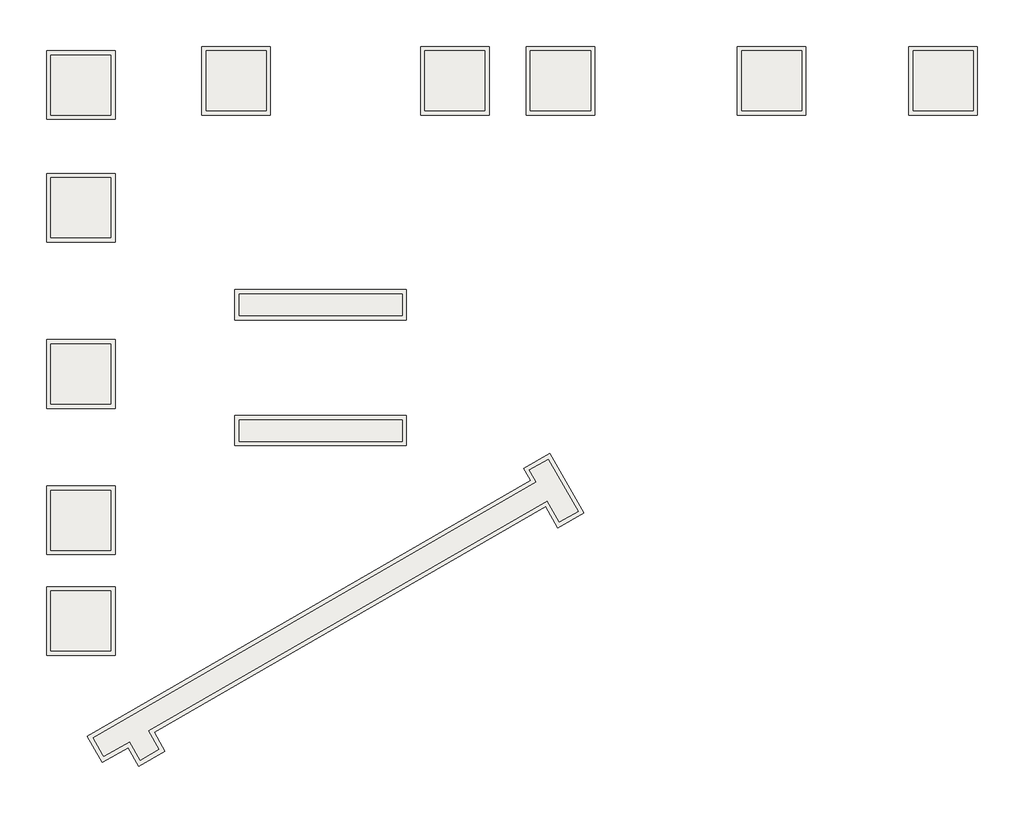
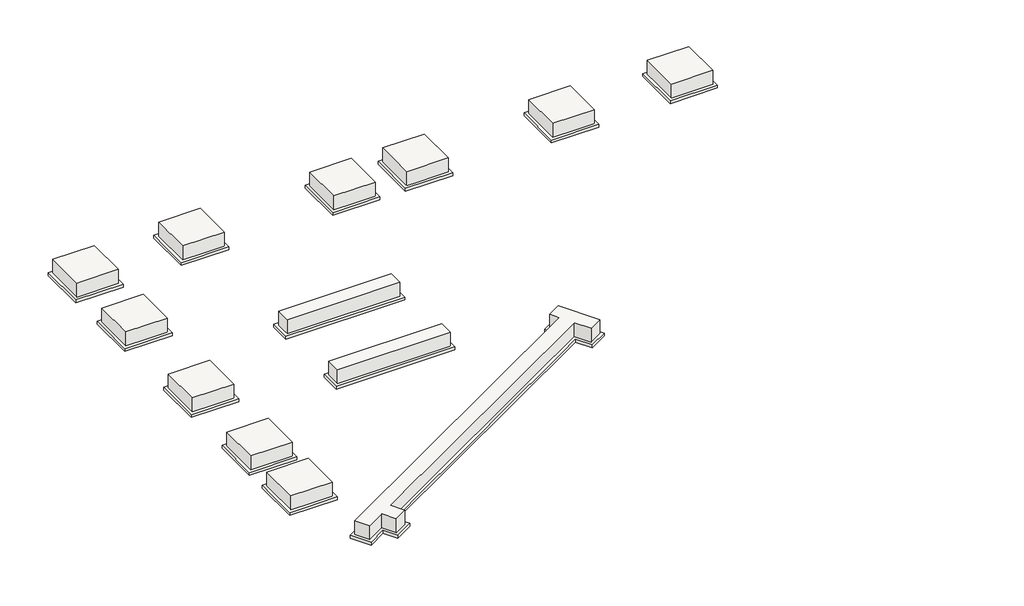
# One storey: 2 slabs.
"""IFC4 building model written with IfcOpenShell, lengths in millimetres."""

from ifc_helpers import new_model, si_unit, frame, origin, place, context, project, spatial, polyline, outline, extrude, faceted_brep, element, save

model = new_model("IFC4")

# Units and contexts
model_context = context("Model", 3, world=origin())
ifc_project = project(units=[si_unit("LENGTHUNIT", "METRE", prefix="MILLI")], contexts=[model_context])

# Site, building, storey
site = spatial("IfcSite", under=ifc_project)
building = spatial("IfcBuilding", under=site)
storey = spatial("IfcBuildingStorey", under=building, Name="КЖм.+1.100 (Верх ростверка 4)", Elevation=1100.0)

# Slabs
placement = place(None, origin())
element("IfcSlab", 1, ObjectType="В25 500мм", at=placement, inside=storey, context=model_context, shape_type="Brep", body=[
    faceted_brep([(16313.0052953, 39954.478659, 600.0), (16313.0052953, 38554.4786617, 600.0), (14913.0052981, 38554.4786617, 600.0), (14913.0052981, 39954.478659, 600.0), (15313.2052981, 38954.4786617, 600.0), (15013.2052981, 38954.4786617, 600.0), (15013.2052981, 38654.4786617, 600.0), (15313.2052981, 38654.4786617, 600.0), (15763.2052981, 39854.4786617, 600.0), (15463.2052981, 39854.4786617, 600.0), (15463.2052981, 39554.4786617, 600.0), (15763.2052981, 39554.4786617, 600.0), (16213.2052988, 38954.478661, 600.0), (15913.2052988, 38954.478661, 600.0), (15913.2052988, 38654.478661, 600.0), (16213.2052988, 38654.478661, 600.0), (16313.0052953, 38554.4786617, 1100.0), (16313.0052953, 39954.478659, 1100.0), (14913.0052981, 39954.478659, 1100.0), (14913.0052981, 38554.4786617, 1100.0), (15013.2052981, 38954.4786617, 650.0), (15313.2052981, 38954.4786617, 650.0), (15313.2052981, 38654.4786617, 650.0), (15013.2052981, 38654.4786617, 650.0), (15463.2052981, 39854.4786617, 650.0), (15763.2052981, 39854.4786617, 650.0), (15763.2052981, 39554.4786617, 650.0), (15463.2052981, 39554.4786617, 650.0), (15913.2052988, 38954.478661, 650.0), (16213.2052988, 38954.478661, 650.0), (16213.2052988, 38654.478661, 650.0), (15913.2052988, 38654.478661, 650.0)], [[[0, 1, 2, 3], [4, 5, 6, 7], [8, 9, 10, 11], [12, 13, 14, 15]], [[16, 17, 18, 19]], [[1, 0, 17, 16]], [[2, 1, 16, 19]], [[3, 2, 19, 18]], [[0, 3, 18, 17]], [[20, 21, 22, 23]], [[21, 20, 5, 4]], [[20, 23, 6, 5]], [[23, 22, 7, 6]], [[22, 21, 4, 7]], [[24, 25, 26, 27]], [[25, 24, 9, 8]], [[24, 27, 10, 9]], [[27, 26, 11, 10]], [[26, 25, 8, 11]], [[28, 29, 30, 31]], [[29, 28, 13, 12]], [[28, 31, 14, 13]], [[31, 30, 15, 14]], [[30, 29, 12, 15]]]),
    faceted_brep([(12313.0052953, 39954.478659, 600.0), (12313.0052953, 38554.4786617, 600.0), (10913.0052981, 38554.4786617, 600.0), (10913.0052981, 39954.478659, 600.0), (11313.2052981, 38954.4786617, 600.0), (11013.2052981, 38954.4786617, 600.0), (11013.2052981, 38654.4786617, 600.0), (11313.2052981, 38654.4786617, 600.0), (11763.2052981, 39854.4786617, 600.0), (11463.2052981, 39854.4786617, 600.0), (11463.2052981, 39554.4786617, 600.0), (11763.2052981, 39554.4786617, 600.0), (12213.2052988, 38954.478661, 600.0), (11913.2052988, 38954.478661, 600.0), (11913.2052988, 38654.478661, 600.0), (12213.2052988, 38654.478661, 600.0), (12313.0052953, 38554.4786617, 1100.0), (12313.0052953, 39954.478659, 1100.0), (10913.0052981, 39954.478659, 1100.0), (10913.0052981, 38554.4786617, 1100.0), (11013.2052981, 38954.4786617, 650.0), (11313.2052981, 38954.4786617, 650.0), (11313.2052981, 38654.4786617, 650.0), (11013.2052981, 38654.4786617, 650.0), (11463.2052981, 39854.4786617, 650.0), (11763.2052981, 39854.4786617, 650.0), (11763.2052981, 39554.4786617, 650.0), (11463.2052981, 39554.4786617, 650.0), (11913.2052988, 38954.478661, 650.0), (12213.2052988, 38954.478661, 650.0), (12213.2052988, 38654.478661, 650.0), (11913.2052988, 38654.478661, 650.0)], [[[0, 1, 2, 3], [4, 5, 6, 7], [8, 9, 10, 11], [12, 13, 14, 15]], [[16, 17, 18, 19]], [[1, 0, 17, 16]], [[2, 1, 16, 19]], [[3, 2, 19, 18]], [[0, 3, 18, 17]], [[20, 21, 22, 23]], [[21, 20, 5, 4]], [[20, 23, 6, 5]], [[23, 22, 7, 6]], [[22, 21, 4, 7]], [[24, 25, 26, 27]], [[25, 24, 9, 8]], [[24, 27, 10, 9]], [[27, 26, 11, 10]], [[26, 25, 8, 11]], [[28, 29, 30, 31]], [[29, 28, 13, 12]], [[28, 31, 14, 13]], [[31, 30, 15, 14]], [[30, 29, 12, 15]]]),
    faceted_brep([(7393.0494027, 39954.478659, 600.0), (7393.0494027, 38554.4786617, 600.0), (5993.0494055, 38554.4786617, 600.0), (5993.0494055, 39954.478659, 600.0), (6393.2494055, 38954.4786617, 600.0), (6093.2494055, 38954.4786617, 600.0), (6093.2494055, 38654.4786617, 600.0), (6393.2494055, 38654.4786617, 600.0), (6843.2494055, 39854.4786617, 600.0), (6543.2494055, 39854.4786617, 600.0), (6543.2494055, 39554.4786617, 600.0), (6843.2494055, 39554.4786617, 600.0), (7293.2494062, 38954.478661, 600.0), (6993.2494062, 38954.478661, 600.0), (6993.2494062, 38654.478661, 600.0), (7293.2494062, 38654.478661, 600.0), (7393.0494027, 38554.4786617, 1100.0), (7393.0494027, 39954.478659, 1100.0), (5993.0494055, 39954.478659, 1100.0), (5993.0494055, 38554.4786617, 1100.0), (6093.2494055, 38954.4786617, 650.0), (6393.2494055, 38954.4786617, 650.0), (6393.2494055, 38654.4786617, 650.0), (6093.2494055, 38654.4786617, 650.0), (6543.2494055, 39854.4786617, 650.0), (6843.2494055, 39854.4786617, 650.0), (6843.2494055, 39554.4786617, 650.0), (6543.2494055, 39554.4786617, 650.0), (6993.2494062, 38954.478661, 650.0), (7293.2494062, 38954.478661, 650.0), (7293.2494062, 38654.478661, 650.0), (6993.2494062, 38654.478661, 650.0)], [[[0, 1, 2, 3], [4, 5, 6, 7], [8, 9, 10, 11], [12, 13, 14, 15]], [[16, 17, 18, 19]], [[1, 0, 17, 16]], [[2, 1, 16, 19]], [[3, 2, 19, 18]], [[0, 3, 18, 17]], [[20, 21, 22, 23]], [[21, 20, 5, 4]], [[20, 23, 6, 5]], [[23, 22, 7, 6]], [[22, 21, 4, 7]], [[24, 25, 26, 27]], [[25, 24, 9, 8]], [[24, 27, 10, 9]], [[27, 26, 11, 10]], [[26, 25, 8, 11]], [[28, 29, 30, 31]], [[29, 28, 13, 12]], [[28, 31, 14, 13]], [[31, 30, 15, 14]], [[30, 29, 12, 15]]]),
    faceted_brep([(4933.0494055, 39954.4786829, 600.0), (4933.0494055, 38554.4786856, 600.0), (3533.0494083, 38554.4786856, 600.0), (3533.0494083, 39954.4786829, 600.0), (3933.0494083, 38954.4786856, 600.0), (3633.0494083, 38954.4786856, 600.0), (3633.0494083, 38654.4786856, 600.0), (3933.0494083, 38654.4786856, 600.0), (4383.0494083, 39854.4786856, 600.0), (4083.0494083, 39854.4786856, 600.0), (4083.0494083, 39554.4786856, 600.0), (4383.0494083, 39554.4786856, 600.0), (4833.049409, 38954.4786849, 600.0), (4533.049409, 38954.4786849, 600.0), (4533.049409, 38654.4786849, 600.0), (4833.049409, 38654.4786849, 600.0), (4933.0494055, 38554.4786856, 1100.0), (4933.0494055, 39954.4786829, 1100.0), (3533.0494083, 39954.4786829, 1100.0), (3533.0494083, 38554.4786856, 1100.0), (3633.0494083, 38954.4786856, 650.0), (3933.0494083, 38954.4786856, 650.0), (3933.0494083, 38654.4786856, 650.0), (3633.0494083, 38654.4786856, 650.0), (4083.0494083, 39854.4786856, 650.0), (4383.0494083, 39854.4786856, 650.0), (4383.0494083, 39554.4786856, 650.0), (4083.0494083, 39554.4786856, 650.0), (4533.049409, 38954.4786849, 650.0), (4833.049409, 38954.4786849, 650.0), (4833.049409, 38654.4786849, 650.0), (4533.049409, 38654.4786849, 650.0)], [[[0, 1, 2, 3], [4, 5, 6, 7], [8, 9, 10, 11], [12, 13, 14, 15]], [[16, 17, 18, 19]], [[1, 0, 17, 16]], [[2, 1, 16, 19]], [[3, 2, 19, 18]], [[0, 3, 18, 17]], [[20, 21, 22, 23]], [[21, 20, 5, 4]], [[20, 23, 6, 5]], [[23, 22, 7, 6]], [[22, 21, 4, 7]], [[24, 25, 26, 27]], [[25, 24, 9, 8]], [[24, 27, 10, 9]], [[27, 26, 11, 10]], [[26, 25, 8, 11]], [[28, 29, 30, 31]], [[29, 28, 13, 12]], [[28, 31, 14, 13]], [[31, 30, 15, 14]], [[30, 29, 12, 15]]]),
    faceted_brep([(-166.9506083, 39954.4786829, 600.0), (-166.9506083, 38554.4786856, 600.0), (-1566.9506055, 38554.4786856, 600.0), (-1566.9506055, 39954.4786829, 600.0), (-1166.9506055, 38954.4786856, 600.0), (-1466.9506055, 38954.4786856, 600.0), (-1466.9506055, 38654.4786856, 600.0), (-1166.9506055, 38654.4786856, 600.0), (-716.9506055, 39854.4786856, 600.0), (-1016.9506055, 39854.4786856, 600.0), (-1016.9506055, 39554.4786856, 600.0), (-716.9506055, 39554.4786856, 600.0), (-266.9506048, 38954.4786849, 600.0), (-566.9506048, 38954.4786849, 600.0), (-566.9506048, 38654.4786849, 600.0), (-266.9506048, 38654.4786849, 600.0), (-166.9506083, 38554.4786856, 1100.0), (-166.9506083, 39954.4786829, 1100.0), (-1566.9506055, 39954.4786829, 1100.0), (-1566.9506055, 38554.4786856, 1100.0), (-1466.9506055, 38954.4786856, 650.0), (-1166.9506055, 38954.4786856, 650.0), (-1166.9506055, 38654.4786856, 650.0), (-1466.9506055, 38654.4786856, 650.0), (-1016.9506055, 39854.4786856, 650.0), (-716.9506055, 39854.4786856, 650.0), (-716.9506055, 39554.4786856, 650.0), (-1016.9506055, 39554.4786856, 650.0), (-566.9506048, 38954.4786849, 650.0), (-266.9506048, 38954.4786849, 650.0), (-266.9506048, 38654.4786849, 650.0), (-566.9506048, 38654.4786849, 650.0)], [[[0, 1, 2, 3], [4, 5, 6, 7], [8, 9, 10, 11], [12, 13, 14, 15]], [[16, 17, 18, 19]], [[1, 0, 17, 16]], [[2, 1, 16, 19]], [[3, 2, 19, 18]], [[0, 3, 18, 17]], [[20, 21, 22, 23]], [[21, 20, 5, 4]], [[20, 23, 6, 5]], [[23, 22, 7, 6]], [[22, 21, 4, 7]], [[24, 25, 26, 27]], [[25, 24, 9, 8]], [[24, 27, 10, 9]], [[27, 26, 11, 10]], [[26, 25, 8, 11]], [[28, 29, 30, 31]], [[29, 28, 13, 12]], [[28, 31, 14, 13]], [[31, 30, 15, 14]], [[30, 29, 12, 15]]]),
    faceted_brep([(-3786.994946, 39854.4786829, 600.0), (-3786.994946, 38454.4786856, 600.0), (-5186.9949431, 38454.4786856, 600.0), (-5186.9949431, 39854.4786829, 600.0), (-4786.7949445, 38854.4786842, 600.0), (-5086.7949445, 38854.4786842, 600.0), (-5086.7949445, 38554.4786842, 600.0), (-4786.7949445, 38554.4786842, 600.0), (-4336.7949445, 39754.4786842, 600.0), (-4636.7949445, 39754.4786842, 600.0), (-4636.7949445, 39454.4786842, 600.0), (-4336.7949445, 39454.4786842, 600.0), (-3886.7949438, 38854.4786835, 600.0), (-4186.7949438, 38854.4786835, 600.0), (-4186.7949438, 38554.4786835, 600.0), (-3886.7949438, 38554.4786835, 600.0), (-3786.994946, 38454.4786856, 1100.0), (-3786.994946, 39854.4786829, 1100.0), (-5186.9949431, 39854.4786829, 1100.0), (-5186.9949431, 38454.4786856, 1100.0), (-5086.7949445, 38854.4786842, 650.0), (-4786.7949445, 38854.4786842, 650.0), (-4786.7949445, 38554.4786842, 650.0), (-5086.7949445, 38554.4786842, 650.0), (-4636.7949445, 39754.4786842, 650.0), (-4336.7949445, 39754.4786842, 650.0), (-4336.7949445, 39454.4786842, 650.0), (-4636.7949445, 39454.4786842, 650.0), (-4186.7949438, 38854.4786835, 650.0), (-3886.7949438, 38854.4786835, 650.0), (-3886.7949438, 38554.4786835, 650.0), (-4186.7949438, 38554.4786835, 650.0)], [[[0, 1, 2, 3], [4, 5, 6, 7], [8, 9, 10, 11], [12, 13, 14, 15]], [[16, 17, 18, 19]], [[1, 0, 17, 16]], [[2, 1, 16, 19]], [[3, 2, 19, 18]], [[0, 3, 18, 17]], [[20, 21, 22, 23]], [[21, 20, 5, 4]], [[20, 23, 6, 5]], [[23, 22, 7, 6]], [[22, 21, 4, 7]], [[24, 25, 26, 27]], [[25, 24, 9, 8]], [[24, 27, 10, 9]], [[27, 26, 11, 10]], [[26, 25, 8, 11]], [[28, 29, 30, 31]], [[29, 28, 13, 12]], [[28, 31, 14, 13]], [[31, 30, 15, 14]], [[30, 29, 12, 15]]]),
    faceted_brep([(-3786.9954938, 36994.4786829, 600.0), (-3786.9954938, 35594.4786856, 600.0), (-5186.995491, 35594.4786856, 600.0), (-5186.995491, 36994.4786829, 600.0), (-4786.7958846, 35994.4786842, 600.0), (-5086.7958846, 35994.4786842, 600.0), (-5086.7958846, 35694.4786842, 600.0), (-4786.7958846, 35694.4786842, 600.0), (-4336.7958846, 36894.4786842, 600.0), (-4636.7958846, 36894.4786842, 600.0), (-4636.7958846, 36594.4786842, 600.0), (-4336.7958846, 36594.4786842, 600.0), (-3886.795884, 35994.4786835, 600.0), (-4186.795884, 35994.4786835, 600.0), (-4186.795884, 35694.4786835, 600.0), (-3886.795884, 35694.4786835, 600.0), (-3786.9954938, 35594.4786856, 1100.0), (-3786.9954938, 36994.4786829, 1100.0), (-5186.995491, 36994.4786829, 1100.0), (-5186.995491, 35594.4786856, 1100.0), (-5086.7958846, 35994.4786842, 650.0), (-4786.7958846, 35994.4786842, 650.0), (-4786.7958846, 35694.4786842, 650.0), (-5086.7958846, 35694.4786842, 650.0), (-4636.7958846, 36894.4786842, 650.0), (-4336.7958846, 36894.4786842, 650.0), (-4336.7958846, 36594.4786842, 650.0), (-4636.7958846, 36594.4786842, 650.0), (-4186.795884, 35994.4786835, 650.0), (-3886.795884, 35994.4786835, 650.0), (-3886.795884, 35694.4786835, 650.0), (-4186.795884, 35694.4786835, 650.0)], [[[0, 1, 2, 3], [4, 5, 6, 7], [8, 9, 10, 11], [12, 13, 14, 15]], [[16, 17, 18, 19]], [[1, 0, 17, 16]], [[2, 1, 16, 19]], [[3, 2, 19, 18]], [[0, 3, 18, 17]], [[20, 21, 22, 23]], [[21, 20, 5, 4]], [[20, 23, 6, 5]], [[23, 22, 7, 6]], [[22, 21, 4, 7]], [[24, 25, 26, 27]], [[25, 24, 9, 8]], [[24, 27, 10, 9]], [[27, 26, 11, 10]], [[26, 25, 8, 11]], [[28, 29, 30, 31]], [[29, 28, 13, 12]], [[28, 31, 14, 13]], [[31, 30, 15, 14]], [[30, 29, 12, 15]]]),
    faceted_brep([(-3786.9958848, 31714.4786856, 600.0), (-5186.9958819, 31714.4786856, 600.0), (-5186.9958819, 33114.4786829, 600.0), (-3786.9958848, 33114.4786829, 600.0), (-4786.7958846, 32114.4786842, 600.0), (-5086.7958846, 32114.4786842, 600.0), (-5086.7958846, 31814.4786842, 600.0), (-4786.7958846, 31814.4786842, 600.0), (-4336.7958846, 33014.4786842, 600.0), (-4636.7958846, 33014.4786842, 600.0), (-4636.7958846, 32714.4786842, 600.0), (-4336.7958846, 32714.4786842, 600.0), (-3886.795884, 32114.4786835, 600.0), (-4186.795884, 32114.4786835, 600.0), (-4186.795884, 31814.4786835, 600.0), (-3886.795884, 31814.4786835, 600.0), (-5186.9958819, 31714.4786856, 1100.0), (-3786.9958848, 31714.4786856, 1100.0), (-3786.9958848, 33114.4786829, 1100.0), (-5186.9958819, 33114.4786829, 1100.0), (-5086.7958846, 32114.4786842, 650.0), (-4786.7958846, 32114.4786842, 650.0), (-4786.7958846, 31814.4786842, 650.0), (-5086.7958846, 31814.4786842, 650.0), (-4636.7958846, 33014.4786842, 650.0), (-4336.7958846, 33014.4786842, 650.0), (-4336.7958846, 32714.4786842, 650.0), (-4636.7958846, 32714.4786842, 650.0), (-4186.795884, 32114.4786835, 650.0), (-3886.795884, 32114.4786835, 650.0), (-3886.795884, 31814.4786835, 650.0), (-4186.795884, 31814.4786835, 650.0)], [[[0, 1, 2, 3], [4, 5, 6, 7], [8, 9, 10, 11], [12, 13, 14, 15]], [[16, 17, 18, 19]], [[1, 0, 17, 16]], [[2, 1, 16, 19]], [[3, 2, 19, 18]], [[0, 3, 18, 17]], [[20, 21, 22, 23]], [[21, 20, 5, 4]], [[20, 23, 6, 5]], [[23, 22, 7, 6]], [[22, 21, 4, 7]], [[24, 25, 26, 27]], [[25, 24, 9, 8]], [[24, 27, 10, 9]], [[27, 26, 11, 10]], [[26, 25, 8, 11]], [[28, 29, 30, 31]], [[29, 28, 13, 12]], [[28, 31, 14, 13]], [[31, 30, 15, 14]], [[30, 29, 12, 15]]]),
    faceted_brep([(-3786.9963325, 28304.4786856, 600.0), (-5186.9963297, 28304.4786856, 600.0), (-5186.9963297, 29704.4786829, 600.0), (-3786.9963325, 29704.4786829, 600.0), (-4786.7963324, 28704.4786842, 600.0), (-5086.7963324, 28704.4786842, 600.0), (-5086.7963324, 28404.4786842, 600.0), (-4786.7963324, 28404.4786842, 600.0), (-4336.7963324, 29604.4786842, 600.0), (-4636.7963324, 29604.4786842, 600.0), (-4636.7963324, 29304.4786842, 600.0), (-4336.7963324, 29304.4786842, 600.0), (-3886.7963317, 28704.4786835, 600.0), (-4186.7963317, 28704.4786835, 600.0), (-4186.7963317, 28404.4786835, 600.0), (-3886.7963317, 28404.4786835, 600.0), (-5186.9963297, 28304.4786856, 1100.0), (-3786.9963325, 28304.4786856, 1100.0), (-3786.9963325, 29704.4786829, 1100.0), (-5186.9963297, 29704.4786829, 1100.0), (-5086.7963324, 28704.4786842, 650.0), (-4786.7963324, 28704.4786842, 650.0), (-4786.7963324, 28404.4786842, 650.0), (-5086.7963324, 28404.4786842, 650.0), (-4636.7963324, 29604.4786842, 650.0), (-4336.7963324, 29604.4786842, 650.0), (-4336.7963324, 29304.4786842, 650.0), (-4636.7963324, 29304.4786842, 650.0), (-4186.7963317, 28704.4786835, 650.0), (-3886.7963317, 28704.4786835, 650.0), (-3886.7963317, 28404.4786835, 650.0), (-4186.7963317, 28404.4786835, 650.0)], [[[0, 1, 2, 3], [4, 5, 6, 7], [8, 9, 10, 11], [12, 13, 14, 15]], [[16, 17, 18, 19]], [[1, 0, 17, 16]], [[2, 1, 16, 19]], [[3, 2, 19, 18]], [[0, 3, 18, 17]], [[20, 21, 22, 23]], [[21, 20, 5, 4]], [[20, 23, 6, 5]], [[23, 22, 7, 6]], [[22, 21, 4, 7]], [[24, 25, 26, 27]], [[25, 24, 9, 8]], [[24, 27, 10, 9]], [[27, 26, 11, 10]], [[26, 25, 8, 11]], [[28, 29, 30, 31]], [[29, 28, 13, 12]], [[28, 31, 14, 13]], [[31, 30, 15, 14]], [[30, 29, 12, 15]]]),
    faceted_brep([(-3786.9966639, 25954.4786856, 600.0), (-5186.9966611, 25954.4786856, 600.0), (-5186.9966611, 27354.4786829, 600.0), (-3786.9966639, 27354.4786829, 600.0), (-4786.7966631, 26354.4786849, 600.0), (-5086.7966631, 26354.4786849, 600.0), (-5086.7966631, 26054.4786849, 600.0), (-4786.7966631, 26054.4786849, 600.0), (-4336.7966631, 27254.4786849, 600.0), (-4636.7966631, 27254.4786849, 600.0), (-4636.7966631, 26954.4786849, 600.0), (-4336.7966631, 26954.4786849, 600.0), (-3886.7966625, 26354.4786842, 600.0), (-4186.7966625, 26354.4786842, 600.0), (-4186.7966625, 26054.4786842, 600.0), (-3886.7966625, 26054.4786842, 600.0), (-5186.9966611, 25954.4786856, 1100.0), (-3786.9966639, 25954.4786856, 1100.0), (-3786.9966639, 27354.4786829, 1100.0), (-5186.9966611, 27354.4786829, 1100.0), (-5086.7966631, 26354.4786849, 650.0), (-4786.7966631, 26354.4786849, 650.0), (-4786.7966631, 26054.4786849, 650.0), (-5086.7966631, 26054.4786849, 650.0), (-4636.7966631, 27254.4786849, 650.0), (-4336.7966631, 27254.4786849, 650.0), (-4336.7966631, 26954.4786849, 650.0), (-4636.7966631, 26954.4786849, 650.0), (-4186.7966625, 26354.4786842, 650.0), (-3886.7966625, 26354.4786842, 650.0), (-3886.7966625, 26054.4786842, 650.0), (-4186.7966625, 26054.4786842, 650.0)], [[[0, 1, 2, 3], [4, 5, 6, 7], [8, 9, 10, 11], [12, 13, 14, 15]], [[16, 17, 18, 19]], [[1, 0, 17, 16]], [[2, 1, 16, 19]], [[3, 2, 19, 18]], [[0, 3, 18, 17]], [[20, 21, 22, 23]], [[21, 20, 5, 4]], [[20, 23, 6, 5]], [[23, 22, 7, 6]], [[22, 21, 4, 7]], [[24, 25, 26, 27]], [[25, 24, 9, 8]], [[24, 27, 10, 9]], [[27, 26, 11, 10]], [[26, 25, 8, 11]], [[28, 29, 30, 31]], [[29, 28, 13, 12]], [[28, 31, 14, 13]], [[31, 30, 15, 14]], [[30, 29, 12, 15]]]),
    faceted_brep([(-2917.4582933, 24089.453141, 600.0), (-2667.4323507, 23656.48031, 600.0), (-3100.3785299, 23406.4136736, 600.0), (-3350.5043506, 23839.46232, 600.0), (-3948.0527479, 23494.3226121, 600.0), (-4198.0893619, 23927.313923, 600.0), (6133.1394989, 29893.2199773, 600.0), (5970.3716262, 30175.0869944, 600.0), (6403.3631221, 30425.1237152, 600.0), (7103.4659495, 29212.7475237, 600.0), (6669.6151809, 28962.2146017, 600.0), (6383.0486423, 29460.1550568, 600.0), (-17.2566477, 26226.0864916, 600.0), (-277.0642689, 26076.0864916, 600.0), (-127.0642689, 25816.2788705, 600.0), (132.7433523, 25966.2788705, 600.0), (1628.1110456, 27176.226036, 600.0), (1368.3034244, 27026.226036, 600.0), (1518.3034244, 26766.4184149, 600.0), (1778.1110456, 26916.4184149, 600.0), (3273.4787389, 28126.3655804, 600.0), (3013.6711177, 27976.3655804, 600.0), (3163.6711177, 27716.5579593, 600.0), (3423.4787389, 27866.5579593, 600.0), (4918.8464322, 29076.5051248, 600.0), (4659.038811, 28926.5051248, 600.0), (4809.038811, 28666.6975037, 600.0), (5068.8464322, 28816.6975037, 600.0), (6366.0751272, 30288.0861751, 600.0), (6106.2675061, 30138.0861751, 600.0), (6256.2675061, 29878.278554, 600.0), (6516.0751272, 30028.278554, 600.0), (6816.1412272, 29508.7014783, 600.0), (6556.3336061, 29358.7014783, 600.0), (6706.3336061, 29098.8938571, 600.0), (6966.1412272, 29248.8938571, 600.0), (-3801.634083, 24040.7314657, 600.0), (-4061.4417042, 23890.7314657, 600.0), (-3911.4417042, 23630.9238446, 600.0), (-3651.634083, 23780.9238446, 600.0), (-2954.0119989, 23952.8084302, 600.0), (-3213.8196201, 23802.8084302, 600.0), (-3063.8196201, 23543.000809, 600.0), (-2804.0119989, 23693.000809, 600.0), (-2242.9088343, 24941.0400775, 600.0), (-2502.7164555, 24791.0400775, 600.0), (-2352.7164555, 24531.2324564, 600.0), (-2092.9088343, 24681.2324564, 600.0), (-2667.4323507, 23656.48031, 1100.0), (-2917.4582933, 24089.453141, 1100.0), (6383.0486423, 29460.1550568, 1100.0), (6669.6151809, 28962.2146017, 1100.0), (7103.4659495, 29212.7475237, 1100.0), (6403.3631221, 30425.1237152, 1100.0), (5970.3716262, 30175.0869944, 1100.0), (6133.1394989, 29893.2199773, 1100.0), (-4198.0893619, 23927.313923, 1100.0), (-3973.0562866, 23537.6215307, 1100.0), (-3948.0527479, 23494.3226121, 1100.0), (-3350.5043506, 23839.46232, 1100.0), (-3100.3785299, 23406.4136736, 1100.0), (-277.0642689, 26076.0864916, 650.0), (-17.2566477, 26226.0864916, 650.0), (132.7433523, 25966.2788705, 650.0), (-127.0642689, 25816.2788705, 650.0), (1368.3034244, 27026.226036, 650.0), (1628.1110456, 27176.226036, 650.0), (1778.1110456, 26916.4184149, 650.0), (1518.3034244, 26766.4184149, 650.0), (3013.6711177, 27976.3655804, 650.0), (3273.4787389, 28126.3655804, 650.0), (3423.4787389, 27866.5579593, 650.0), (3163.6711177, 27716.5579593, 650.0), (4659.038811, 28926.5051248, 650.0), (4918.8464322, 29076.5051248, 650.0), (5068.8464322, 28816.6975037, 650.0), (4809.038811, 28666.6975037, 650.0), (6106.2675061, 30138.0861751, 650.0), (6366.0751272, 30288.0861751, 650.0), (6516.0751272, 30028.278554, 650.0), (6256.2675061, 29878.278554, 650.0), (6556.3336061, 29358.7014783, 650.0), (6816.1412272, 29508.7014783, 650.0), (6966.1412272, 29248.8938571, 650.0), (6706.3336061, 29098.8938571, 650.0), (-4061.4417042, 23890.7314657, 650.0), (-3801.634083, 24040.7314657, 650.0), (-3651.634083, 23780.9238446, 650.0), (-3911.4417042, 23630.9238446, 650.0), (-3213.8196201, 23802.8084302, 650.0), (-2954.0119989, 23952.8084302, 650.0), (-2804.0119989, 23693.000809, 650.0), (-3063.8196201, 23543.000809, 650.0), (-2502.7164555, 24791.0400775, 650.0), (-2242.9088343, 24941.0400775, 650.0), (-2092.9088343, 24681.2324564, 650.0), (-2352.7164555, 24531.2324564, 650.0)], [[[0, 1, 2, 3, 4, 5, 6, 7, 8, 9, 10, 11], [12, 13, 14, 15], [16, 17, 18, 19], [20, 21, 22, 23], [24, 25, 26, 27], [28, 29, 30, 31], [32, 33, 34, 35], [36, 37, 38, 39], [40, 41, 42, 43], [44, 45, 46, 47]], [[48, 49, 50, 51, 52, 53, 54, 55, 56, 57, 58, 59, 60]], [[1, 0, 49, 48]], [[2, 1, 48, 60]], [[3, 2, 60, 59]], [[6, 5, 56, 55]], [[7, 6, 55, 54]], [[8, 7, 54, 53]], [[9, 8, 53, 52]], [[10, 9, 52, 51]], [[11, 10, 51, 50]], [[0, 11, 50, 49]], [[4, 3, 59, 58]], [[5, 4, 58, 57, 56]], [[61, 62, 63, 64]], [[62, 61, 13, 12]], [[61, 64, 14, 13]], [[64, 63, 15, 14]], [[63, 62, 12, 15]], [[65, 66, 67, 68]], [[66, 65, 17, 16]], [[65, 68, 18, 17]], [[68, 67, 19, 18]], [[67, 66, 16, 19]], [[69, 70, 71, 72]], [[70, 69, 21, 20]], [[69, 72, 22, 21]], [[72, 71, 23, 22]], [[71, 70, 20, 23]], [[73, 74, 75, 76]], [[74, 73, 25, 24]], [[73, 76, 26, 25]], [[76, 75, 27, 26]], [[75, 74, 24, 27]], [[77, 78, 79, 80]], [[78, 77, 29, 28]], [[77, 80, 30, 29]], [[80, 79, 31, 30]], [[79, 78, 28, 31]], [[81, 82, 83, 84]], [[82, 81, 33, 32]], [[81, 84, 34, 33]], [[84, 83, 35, 34]], [[83, 82, 32, 35]], [[85, 86, 87, 88]], [[86, 85, 37, 36]], [[85, 88, 38, 37]], [[88, 87, 39, 38]], [[87, 86, 36, 39]], [[89, 90, 91, 92]], [[90, 89, 41, 40]], [[89, 92, 42, 41]], [[92, 91, 43, 42]], [[91, 90, 40, 43]], [[93, 94, 95, 96]], [[94, 93, 45, 44]], [[93, 96, 46, 45]], [[96, 95, 47, 46]], [[95, 94, 44, 47]]]),
    faceted_brep([(3003.4238231, 30844.4786844, 600.0), (-796.5761769, 30844.4786844, 600.0), (-796.5761769, 31344.4786858, 600.0), (3003.4238231, 31344.4786858, 600.0), (2903.4238231, 31244.4786844, 600.0), (2603.4238231, 31244.4786844, 600.0), (2603.4238231, 30944.4786844, 600.0), (2903.4238231, 30944.4786844, 600.0), (-396.5761769, 31244.4786844, 600.0), (-696.5761769, 31244.4786844, 600.0), (-696.5761769, 30944.4786844, 600.0), (-396.5761769, 30944.4786844, 600.0), (1253.4238231, 31244.4786844, 600.0), (953.4238231, 31244.4786844, 600.0), (953.4238231, 30944.4786844, 600.0), (1253.4238231, 30944.4786844, 600.0), (-796.5761769, 30844.4786844, 1100.0), (3003.4238231, 30844.4786844, 1100.0), (3003.4238231, 31344.4786858, 1100.0), (-796.5761769, 31344.4786858, 1100.0), (2603.4238231, 31244.4786844, 650.0), (2903.4238231, 31244.4786844, 650.0), (2903.4238231, 30944.4786844, 650.0), (2603.4238231, 30944.4786844, 650.0), (-696.5761769, 31244.4786844, 650.0), (-396.5761769, 31244.4786844, 650.0), (-396.5761769, 30944.4786844, 650.0), (-696.5761769, 30944.4786844, 650.0), (953.4238231, 31244.4786844, 650.0), (1253.4238231, 31244.4786844, 650.0), (1253.4238231, 30944.4786844, 650.0), (953.4238231, 30944.4786844, 650.0)], [[[0, 1, 2, 3], [4, 5, 6, 7], [8, 9, 10, 11], [12, 13, 14, 15]], [[16, 17, 18, 19]], [[1, 0, 17, 16]], [[2, 1, 16, 19]], [[3, 2, 19, 18]], [[0, 3, 18, 17]], [[20, 21, 22, 23]], [[21, 20, 5, 4]], [[20, 23, 6, 5]], [[23, 22, 7, 6]], [[22, 21, 4, 7]], [[24, 25, 26, 27]], [[25, 24, 9, 8]], [[24, 27, 10, 9]], [[27, 26, 11, 10]], [[26, 25, 8, 11]], [[28, 29, 30, 31]], [[29, 28, 13, 12]], [[28, 31, 14, 13]], [[31, 30, 15, 14]], [[30, 29, 12, 15]]]),
    faceted_brep([(3003.4238231, 33779.4786844, 600.0), (-796.5761769, 33779.4786844, 600.0), (-796.5761769, 34279.4786858, 600.0), (3003.4238231, 34279.4786858, 600.0), (-396.5761769, 34179.4786844, 600.0), (-696.5761769, 34179.4786844, 600.0), (-696.5761769, 33879.4786844, 600.0), (-396.5761769, 33879.4786844, 600.0), (1253.4238231, 34179.4786844, 600.0), (953.4238231, 34179.4786844, 600.0), (953.4238231, 33879.4786844, 600.0), (1253.4238231, 33879.4786844, 600.0), (2903.4238231, 34179.4786844, 600.0), (2603.4238231, 34179.4786844, 600.0), (2603.4238231, 33879.4786844, 600.0), (2903.4238231, 33879.4786844, 600.0), (-796.5761769, 33779.4786844, 1100.0), (3003.4238231, 33779.4786844, 1100.0), (3003.4238231, 34279.4786858, 1100.0), (-796.5761769, 34279.4786858, 1100.0), (-696.5761769, 34179.4786844, 650.0), (-396.5761769, 34179.4786844, 650.0), (-396.5761769, 33879.4786844, 650.0), (-696.5761769, 33879.4786844, 650.0), (953.4238231, 34179.4786844, 650.0), (1253.4238231, 34179.4786844, 650.0), (1253.4238231, 33879.4786844, 650.0), (953.4238231, 33879.4786844, 650.0), (2603.4238231, 34179.4786844, 650.0), (2903.4238231, 34179.4786844, 650.0), (2903.4238231, 33879.4786844, 650.0), (2603.4238231, 33879.4786844, 650.0)], [[[0, 1, 2, 3], [4, 5, 6, 7], [8, 9, 10, 11], [12, 13, 14, 15]], [[16, 17, 18, 19]], [[1, 0, 17, 16]], [[2, 1, 16, 19]], [[3, 2, 19, 18]], [[0, 3, 18, 17]], [[20, 21, 22, 23]], [[21, 20, 5, 4]], [[20, 23, 6, 5]], [[23, 22, 7, 6]], [[22, 21, 4, 7]], [[24, 25, 26, 27]], [[25, 24, 9, 8]], [[24, 27, 10, 9]], [[27, 26, 11, 10]], [[26, 25, 8, 11]], [[28, 29, 30, 31]], [[29, 28, 13, 12]], [[28, 31, 14, 13]], [[31, 30, 15, 14]], [[30, 29, 12, 15]]]),
])
element("IfcSlab", 2, ObjectType="Подготовка 100мм", at=placement, inside=storey, context=model_context, shape_type="SweptSolid", body=[
    extrude(outline(polyline([(16413.0052953, 40054.478659), (16413.0052953, 38454.4786617), (14813.0052981, 38454.4786617), (14813.0052981, 40054.478659), (16413.0052953, 40054.478659)]), holes=[polyline([(15313.2052981, 38954.4786617), (15013.2052981, 38954.4786617), (15013.2052981, 38654.4786617), (15313.2052981, 38654.4786617), (15313.2052981, 38954.4786617)]), polyline([(15763.2052981, 39854.4786617), (15463.2052981, 39854.4786617), (15463.2052981, 39554.4786617), (15763.2052981, 39554.4786617), (15763.2052981, 39854.4786617)]), polyline([(16213.2052988, 38954.478661), (15913.2052988, 38954.478661), (15913.2052988, 38654.478661), (16213.2052988, 38654.478661), (16213.2052988, 38954.478661)])]), frame((0.0, 0.0, 500.0), z_axis=(0.0, 0.0, 1.0), x_axis=(1.0, 0.0, 0.0)), (0.0, 0.0, 1.0), 100.0),
    extrude(outline(polyline([(12413.0052953, 40054.478659), (12413.0052953, 38454.4786617), (10813.0052981, 38454.4786617), (10813.0052981, 40054.478659), (12413.0052953, 40054.478659)]), holes=[polyline([(11313.2052981, 38954.4786617), (11013.2052981, 38954.4786617), (11013.2052981, 38654.4786617), (11313.2052981, 38654.4786617), (11313.2052981, 38954.4786617)]), polyline([(11763.2052981, 39854.4786617), (11463.2052981, 39854.4786617), (11463.2052981, 39554.4786617), (11763.2052981, 39554.4786617), (11763.2052981, 39854.4786617)]), polyline([(12213.2052988, 38954.478661), (11913.2052988, 38954.478661), (11913.2052988, 38654.478661), (12213.2052988, 38654.478661), (12213.2052988, 38954.478661)])]), frame((0.0, 0.0, 500.0), z_axis=(0.0, 0.0, 1.0), x_axis=(1.0, 0.0, 0.0)), (0.0, 0.0, 1.0), 100.0),
    extrude(outline(polyline([(7493.0494027, 40054.478659), (7493.0494027, 38454.4786617), (5893.0494055, 38454.4786617), (5893.0494055, 40054.478659), (7493.0494027, 40054.478659)]), holes=[polyline([(6393.2494055, 38954.4786617), (6093.2494055, 38954.4786617), (6093.2494055, 38654.4786617), (6393.2494055, 38654.4786617), (6393.2494055, 38954.4786617)]), polyline([(6843.2494055, 39854.4786617), (6543.2494055, 39854.4786617), (6543.2494055, 39554.4786617), (6843.2494055, 39554.4786617), (6843.2494055, 39854.4786617)]), polyline([(7293.2494062, 38954.478661), (6993.2494062, 38954.478661), (6993.2494062, 38654.478661), (7293.2494062, 38654.478661), (7293.2494062, 38954.478661)])]), frame((0.0, 0.0, 500.0), z_axis=(0.0, 0.0, 1.0), x_axis=(1.0, 0.0, 0.0)), (0.0, 0.0, 1.0), 100.0),
    extrude(outline(polyline([(5033.0494055, 40054.4786829), (5033.0494055, 38454.4786856), (3433.0494083, 38454.4786856), (3433.0494083, 40054.4786829), (5033.0494055, 40054.4786829)]), holes=[polyline([(3933.0494083, 38954.4786856), (3633.0494083, 38954.4786856), (3633.0494083, 38654.4786856), (3933.0494083, 38654.4786856), (3933.0494083, 38954.4786856)]), polyline([(4383.0494083, 39854.4786856), (4083.0494083, 39854.4786856), (4083.0494083, 39554.4786856), (4383.0494083, 39554.4786856), (4383.0494083, 39854.4786856)]), polyline([(4833.049409, 38954.4786849), (4533.049409, 38954.4786849), (4533.049409, 38654.4786849), (4833.049409, 38654.4786849), (4833.049409, 38954.4786849)])]), frame((0.0, 0.0, 500.0), z_axis=(0.0, 0.0, 1.0), x_axis=(1.0, 0.0, 0.0)), (0.0, 0.0, 1.0), 100.0),
    extrude(outline(polyline([(-66.9506083, 40054.4786829), (-66.9506083, 38454.4786856), (-1666.9506055, 38454.4786856), (-1666.9506055, 40054.4786829), (-66.9506083, 40054.4786829)]), holes=[polyline([(-1166.9506055, 38954.4786856), (-1466.9506055, 38954.4786856), (-1466.9506055, 38654.4786856), (-1166.9506055, 38654.4786856), (-1166.9506055, 38954.4786856)]), polyline([(-716.9506055, 39854.4786856), (-1016.9506055, 39854.4786856), (-1016.9506055, 39554.4786856), (-716.9506055, 39554.4786856), (-716.9506055, 39854.4786856)]), polyline([(-266.9506048, 38954.4786849), (-566.9506048, 38954.4786849), (-566.9506048, 38654.4786849), (-266.9506048, 38654.4786849), (-266.9506048, 38954.4786849)])]), frame((0.0, 0.0, 500.0), z_axis=(0.0, 0.0, 1.0), x_axis=(1.0, 0.0, 0.0)), (0.0, 0.0, 1.0), 100.0),
    extrude(outline(polyline([(-3686.994946, 39954.4786829), (-3686.994946, 38354.4786856), (-5286.9949431, 38354.4786856), (-5286.9949431, 39954.4786829), (-3686.994946, 39954.4786829)]), holes=[polyline([(-4786.7949445, 38854.4786842), (-5086.7949445, 38854.4786842), (-5086.7949445, 38554.4786842), (-4786.7949445, 38554.4786842), (-4786.7949445, 38854.4786842)]), polyline([(-4336.7949445, 39754.4786842), (-4636.7949445, 39754.4786842), (-4636.7949445, 39454.4786842), (-4336.7949445, 39454.4786842), (-4336.7949445, 39754.4786842)]), polyline([(-3886.7949438, 38854.4786835), (-4186.7949438, 38854.4786835), (-4186.7949438, 38554.4786835), (-3886.7949438, 38554.4786835), (-3886.7949438, 38854.4786835)])]), frame((0.0, 0.0, 500.0), z_axis=(0.0, 0.0, 1.0), x_axis=(1.0, 0.0, 0.0)), (0.0, 0.0, 1.0), 100.0),
    extrude(outline(polyline([(-3686.9954938, 37094.4786829), (-3686.9954938, 35494.4786856), (-5286.995491, 35494.4786856), (-5286.995491, 37094.4786829), (-3686.9954938, 37094.4786829)]), holes=[polyline([(-4786.7958846, 35994.4786842), (-5086.7958846, 35994.4786842), (-5086.7958846, 35694.4786842), (-4786.7958846, 35694.4786842), (-4786.7958846, 35994.4786842)]), polyline([(-4336.7958846, 36894.4786842), (-4636.7958846, 36894.4786842), (-4636.7958846, 36594.4786842), (-4336.7958846, 36594.4786842), (-4336.7958846, 36894.4786842)]), polyline([(-3886.795884, 35994.4786835), (-4186.795884, 35994.4786835), (-4186.795884, 35694.4786835), (-3886.795884, 35694.4786835), (-3886.795884, 35994.4786835)])]), frame((0.0, 0.0, 500.0), z_axis=(0.0, 0.0, 1.0), x_axis=(1.0, 0.0, 0.0)), (0.0, 0.0, 1.0), 100.0),
    extrude(outline(polyline([(-3686.9958848, 31614.4786856), (-5286.9958819, 31614.4786856), (-5286.9958819, 33214.4786829), (-3686.9958848, 33214.4786829), (-3686.9958848, 31614.4786856)]), holes=[polyline([(-4786.7958846, 32114.4786842), (-5086.7958846, 32114.4786842), (-5086.7958846, 31814.4786842), (-4786.7958846, 31814.4786842), (-4786.7958846, 32114.4786842)]), polyline([(-4336.7958846, 33014.4786842), (-4636.7958846, 33014.4786842), (-4636.7958846, 32714.4786842), (-4336.7958846, 32714.4786842), (-4336.7958846, 33014.4786842)]), polyline([(-3886.795884, 32114.4786835), (-4186.795884, 32114.4786835), (-4186.795884, 31814.4786835), (-3886.795884, 31814.4786835), (-3886.795884, 32114.4786835)])]), frame((0.0, 0.0, 500.0), z_axis=(0.0, 0.0, 1.0), x_axis=(1.0, 0.0, 0.0)), (0.0, 0.0, 1.0), 100.0),
    extrude(outline(polyline([(-3686.9963325, 28204.4786856), (-5286.9963297, 28204.4786856), (-5286.9963297, 29804.4786829), (-3686.9963325, 29804.4786829), (-3686.9963325, 28204.4786856)]), holes=[polyline([(-4786.7963324, 28704.4786842), (-5086.7963324, 28704.4786842), (-5086.7963324, 28404.4786842), (-4786.7963324, 28404.4786842), (-4786.7963324, 28704.4786842)]), polyline([(-4336.7963324, 29604.4786842), (-4636.7963324, 29604.4786842), (-4636.7963324, 29304.4786842), (-4336.7963324, 29304.4786842), (-4336.7963324, 29604.4786842)]), polyline([(-3886.7963317, 28704.4786835), (-4186.7963317, 28704.4786835), (-4186.7963317, 28404.4786835), (-3886.7963317, 28404.4786835), (-3886.7963317, 28704.4786835)])]), frame((0.0, 0.0, 500.0), z_axis=(0.0, 0.0, 1.0), x_axis=(1.0, 0.0, 0.0)), (0.0, 0.0, 1.0), 100.0),
    extrude(outline(polyline([(-3686.9966639, 25854.4786856), (-5286.9966611, 25854.4786856), (-5286.9966611, 27454.4786829), (-3686.9966639, 27454.4786829), (-3686.9966639, 25854.4786856)]), holes=[polyline([(-4786.7966631, 26354.4786849), (-5086.7966631, 26354.4786849), (-5086.7966631, 26054.4786849), (-4786.7966631, 26054.4786849), (-4786.7966631, 26354.4786849)]), polyline([(-4336.7966631, 27254.4786849), (-4636.7966631, 27254.4786849), (-4636.7966631, 26954.4786849), (-4336.7966631, 26954.4786849), (-4336.7966631, 27254.4786849)]), polyline([(-3886.7966625, 26354.4786842), (-4186.7966625, 26354.4786842), (-4186.7966625, 26054.4786842), (-3886.7966625, 26054.4786842), (-3886.7966625, 26354.4786842)])]), frame((0.0, 0.0, 500.0), z_axis=(0.0, 0.0, 1.0), x_axis=(1.0, 0.0, 0.0)), (0.0, 0.0, 1.0), 100.0),
    extrude(outline(polyline([(-2780.8526492, 24052.8621858), (-2530.8315642, 23619.8977666), (-3136.9562149, 23269.8044757), (-3387.0820357, 23702.8531221), (-3984.6388451, 23357.7085554), (-4334.695006, 23963.9048782), (5996.5338548, 29929.8109325), (5833.7659821, 30211.6779496), (6439.9540769, 30561.7293591), (7240.0715938, 29176.1565691), (6632.896755, 28825.5353474), (6346.3302162, 29323.4758029), (-2780.8526492, 24052.8621858)]), holes=[polyline([(-17.2566477, 26226.0864916), (-277.0642689, 26076.0864916), (-127.0642689, 25816.2788705), (132.7433523, 25966.2788705), (-17.2566477, 26226.0864916)]), polyline([(1628.1110456, 27176.226036), (1368.3034244, 27026.226036), (1518.3034244, 26766.4184149), (1778.1110456, 26916.4184149), (1628.1110456, 27176.226036)]), polyline([(3273.4787389, 28126.3655804), (3013.6711177, 27976.3655804), (3163.6711177, 27716.5579593), (3423.4787389, 27866.5579593), (3273.4787389, 28126.3655804)]), polyline([(4918.8464322, 29076.5051248), (4659.038811, 28926.5051248), (4809.038811, 28666.6975037), (5068.8464322, 28816.6975037), (4918.8464322, 29076.5051248)]), polyline([(6366.0751272, 30288.0861751), (6106.2675061, 30138.0861751), (6256.2675061, 29878.278554), (6516.0751272, 30028.278554), (6366.0751272, 30288.0861751)]), polyline([(6816.1412272, 29508.7014783), (6556.3336061, 29358.7014783), (6706.3336061, 29098.8938571), (6966.1412272, 29248.8938571), (6816.1412272, 29508.7014783)]), polyline([(-3801.634083, 24040.7314657), (-4061.4417042, 23890.7314657), (-3911.4417042, 23630.9238446), (-3651.634083, 23780.9238446), (-3801.634083, 24040.7314657)]), polyline([(-2954.0119989, 23952.8084302), (-3213.8196201, 23802.8084302), (-3063.8196201, 23543.000809), (-2804.0119989, 23693.000809), (-2954.0119989, 23952.8084302)]), polyline([(-2242.9088343, 24941.0400775), (-2502.7164555, 24791.0400775), (-2352.7164555, 24531.2324564), (-2092.9088343, 24681.2324564), (-2242.9088343, 24941.0400775)])]), frame((0.0, 0.0, 500.0), z_axis=(0.0, 0.0, 1.0), x_axis=(1.0, 0.0, 0.0)), (0.0, 0.0, 1.0), 100.0),
    extrude(outline(polyline([(3103.4238231, 30744.4786844), (-896.5761769, 30744.4786844), (-896.5761769, 31444.4786858), (3103.4238231, 31444.4786858), (3103.4238231, 30744.4786844)]), holes=[polyline([(2903.4238231, 31244.4786844), (2603.4238231, 31244.4786844), (2603.4238231, 30944.4786844), (2903.4238231, 30944.4786844), (2903.4238231, 31244.4786844)]), polyline([(-396.5761769, 31244.4786844), (-696.5761769, 31244.4786844), (-696.5761769, 30944.4786844), (-396.5761769, 30944.4786844), (-396.5761769, 31244.4786844)]), polyline([(1253.4238231, 31244.4786844), (953.4238231, 31244.4786844), (953.4238231, 30944.4786844), (1253.4238231, 30944.4786844), (1253.4238231, 31244.4786844)])]), frame((0.0, 0.0, 500.0), z_axis=(0.0, 0.0, 1.0), x_axis=(1.0, 0.0, 0.0)), (0.0, 0.0, 1.0), 100.0),
    extrude(outline(polyline([(3103.4238231, 33679.4786844), (-896.5761769, 33679.4786844), (-896.5761769, 34379.4786858), (3103.4238231, 34379.4786858), (3103.4238231, 33679.4786844)]), holes=[polyline([(2903.4238231, 34179.4786844), (2603.4238231, 34179.4786844), (2603.4238231, 33879.4786844), (2903.4238231, 33879.4786844), (2903.4238231, 34179.4786844)]), polyline([(-396.5761769, 34179.4786844), (-696.5761769, 34179.4786844), (-696.5761769, 33879.4786844), (-396.5761769, 33879.4786844), (-396.5761769, 34179.4786844)]), polyline([(1253.4238231, 34179.4786844), (953.4238231, 34179.4786844), (953.4238231, 33879.4786844), (1253.4238231, 33879.4786844), (1253.4238231, 34179.4786844)])]), frame((0.0, 0.0, 500.0), z_axis=(0.0, 0.0, 1.0), x_axis=(1.0, 0.0, 0.0)), (0.0, 0.0, 1.0), 100.0),
])

save(model, "model.ifc")
